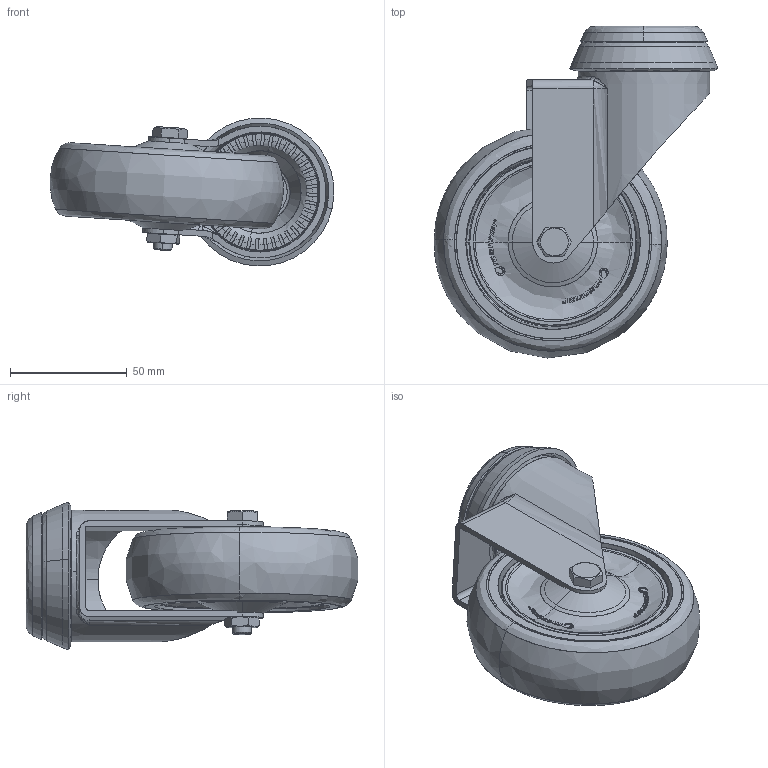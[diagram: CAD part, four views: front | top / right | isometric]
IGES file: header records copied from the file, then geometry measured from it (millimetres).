
Start section: SolidWorks IGES file using analytic representation for surfaces
Global section: file name: O:\ESI NP\IGES\301539_IGES.IGS; native system: SolidWorks 2011; preprocessor: SolidWorks 2011; author: markola; date: 130729.131233; units: millimetre
Bounding box: 121.46 x 142.06 x 63.32 mm (x, y, z)
Surface area: 115894.1 mm2 (no closed solid volume)
Topology: 0 solids, 0 shells, 1372 faces, 14838 edges, 14836 vertices
Faces by surface type: bspline 876, revolution 496
